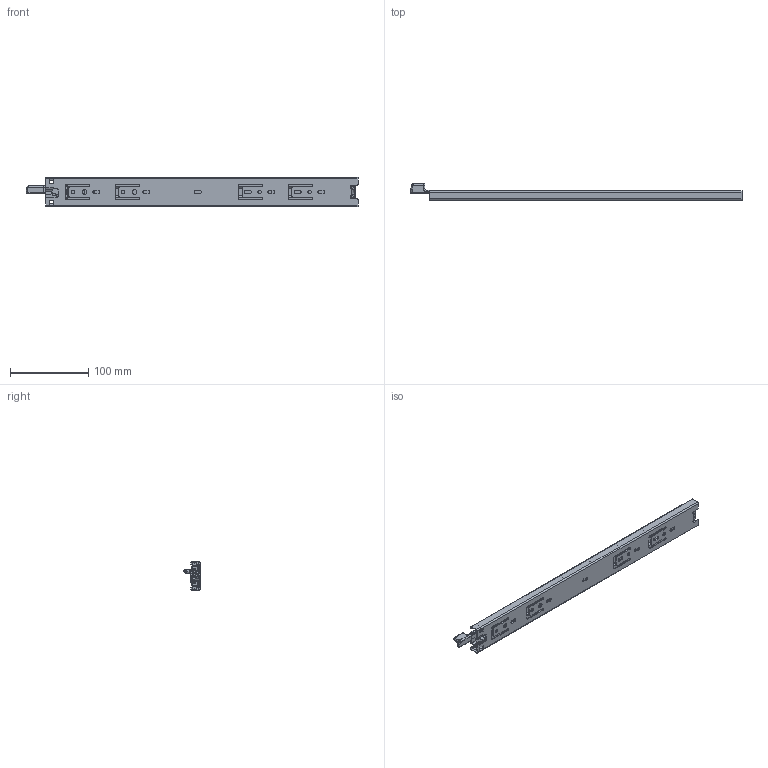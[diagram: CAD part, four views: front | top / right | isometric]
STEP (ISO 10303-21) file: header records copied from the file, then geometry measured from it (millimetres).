
FILE_DESCRIPTION((''),'2;1');
FILE_NAME('1037-BS-16ZUZHUANG_ASM','2023-05-08T',('jishu015'),(''),'PRO/ENGINEER BY PARAMETRIC TECHNOLOGY CORPORATION, 2010280','PRO/ENGINEER BY PARAMETRIC TECHNOLOGY CORPORATION, 2010280','');
FILE_SCHEMA(('CONFIG_CONTROL_DESIGN'));
Length unit declared in the file: millimetre
Products named in the file (18): KP-37-01WAIKE-20_____; 1037WEIJIAO______; WAIKE____ASM; KP-37-01ZHONGGUI-20_____; 1037ZIDIJIAO______; ZHONGGUI____ASM; 1045ZHUTIAO-219____; 37-4-76GANZHU_______; 45ZHUTIAO-219_____ASM; KP-37-01NEIGUI-20_____; 1037BACHA______; 37-4-76GANZHU-23___; JINSUJIAO112___; XIN____ASM; 37ZHUJIA-16GE______; 4GANZHU______; 37ZHUJIA-16GE_______ASM; 1037-BS-16ZUZHUANG_ASM
Assembly tree (48 placements, depth 3):
  1037-BS-16ZUZHUANG_ASM
    WAIKE____ASM
      KP-37-01WAIKE-20_____
      1037WEIJIAO______
    ZHONGGUI____ASM
      KP-37-01ZHONGGUI-20_____
      1037ZIDIJIAO______
    45ZHUTIAO-219_____ASM  x2
      1045ZHUTIAO-219____
      37-4-76GANZHU_______
    XIN____ASM
      KP-37-01NEIGUI-20_____
      1037BACHA______
      37-4-76GANZHU-23___
      JINSUJIAO112___
    37ZHUJIA-16GE_______ASM
      37ZHUJIA-16GE______
      4GANZHU______  x28
Bounding box: 425.04 x 20.7 x 37.2 mm (x, y, z)
Volume: 71079.6 mm3; surface area: 124472.8 mm2
Topology: 47 solids, 47 shells, 1343 faces, 3851 edges, 2386 vertices
Faces by surface type: plane 690, cylinder 520, sphere 77, bspline 43, torus 7, cone 6
Entity records: 42578 total; most frequent: CARTESIAN_POINT 9571, ORIENTED_EDGE 6932, DIRECTION 6883, EDGE_CURVE 3466, AXIS2_PLACEMENT_3D 2313, VECTOR 2257, LINE 2257, VERTEX_POINT 2206
